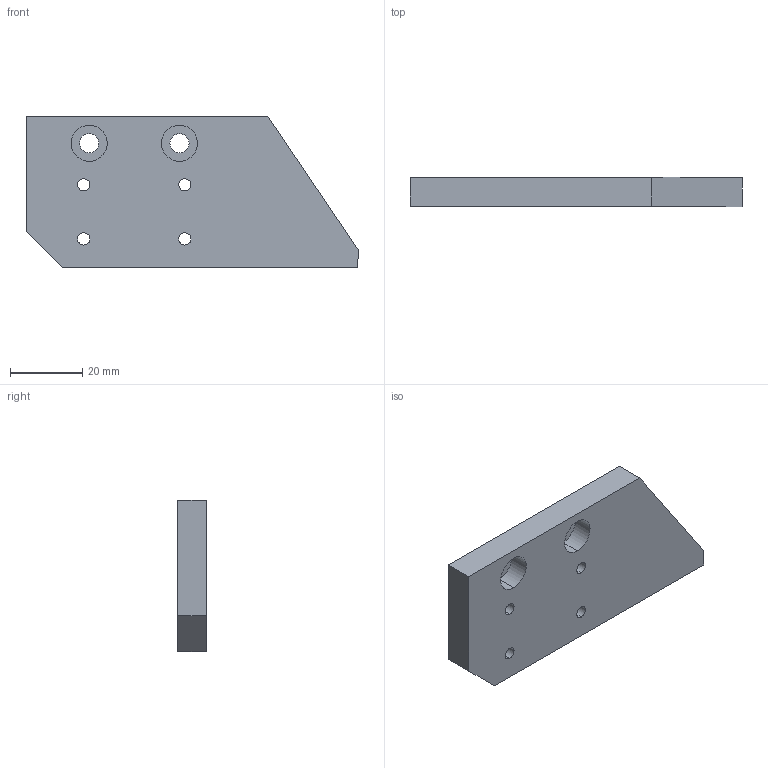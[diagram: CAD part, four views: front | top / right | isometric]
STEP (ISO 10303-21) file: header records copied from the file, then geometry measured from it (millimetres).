
FILE_DESCRIPTION (( 'STEP AP214' ), '1' );
FILE_NAME ('GZ29.09_V1导向块.STEP', '2021-07-06T07:12:21', ( '微软中国' ), ( 'Microsoft' ), 'SwSTEP 2.0', 'SolidWorks 2017', '' );
FILE_SCHEMA (( 'AUTOMOTIVE_DESIGN' ));
Length unit declared in the file: millimetre
Products named in the file (1): GZ29.09_V1絳砃輸
Bounding box: 91.96 x 8 x 42 mm (x, y, z)
Volume: 25255.5 mm3; surface area: 9385.5 mm2
Topology: 1 solids, 1 shells, 38 faces, 90 edges, 60 vertices
Faces by surface type: cylinder 24, plane 14
Entity records: 1180 total; most frequent: DIRECTION 216, CARTESIAN_POINT 189, ORIENTED_EDGE 180, EDGE_CURVE 90, AXIS2_PLACEMENT_3D 87, VERTEX_POINT 60, EDGE_LOOP 56, CIRCLE 48
